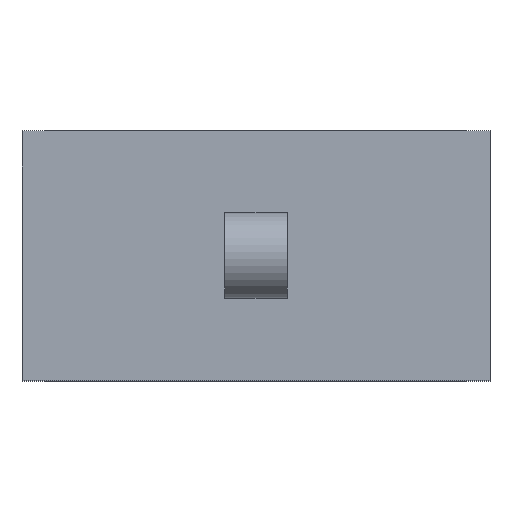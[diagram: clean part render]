
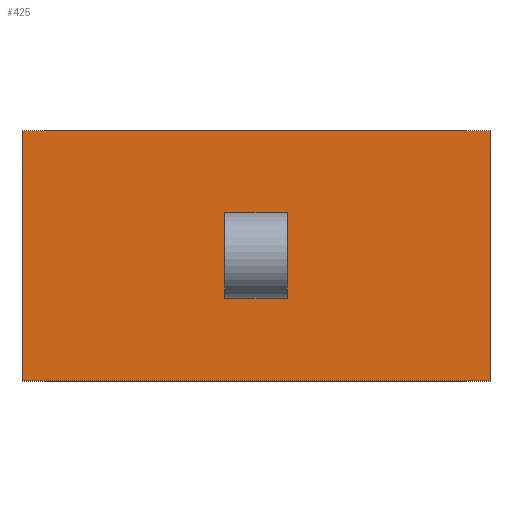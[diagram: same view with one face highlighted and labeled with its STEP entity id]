
A CAD part, top view. The second image highlights one B-rep face of the part: STEP entity #425.
In plain terms, the highlighted planar face has unit normal (0, 0, 1).
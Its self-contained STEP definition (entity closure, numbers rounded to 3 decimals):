
#24 = VERTEX_POINT('',#25);
#25 = CARTESIAN_POINT('',(5.,18.,29.));
#32 = PLANE('',#33);
#33 = AXIS2_PLACEMENT_3D('',#34,#35,#36);
#34 = CARTESIAN_POINT('',(5.,18.,-13.));
#35 = DIRECTION('',(1.,0.,0.));
#36 = DIRECTION('',(0.,0.,1.));
#44 = PLANE('',#45);
#45 = AXIS2_PLACEMENT_3D('',#46,#47,#48);
#46 = CARTESIAN_POINT('',(5.,18.,-13.));
#47 = DIRECTION('',(0.,1.,0.));
#48 = DIRECTION('',(0.,0.,1.));
#85 = VERTEX_POINT('',#86);
#86 = CARTESIAN_POINT('',(5.,50.,29.));
#100 = PLANE('',#101);
#101 = AXIS2_PLACEMENT_3D('',#102,#103,#104);
#102 = CARTESIAN_POINT('',(5.,50.,-13.));
#103 = DIRECTION('',(0.,1.,0.));
#104 = DIRECTION('',(0.,0.,1.));
#112 = EDGE_CURVE('',#24,#85,#113,.T.);
#113 = SURFACE_CURVE('',#114,(#118,#125),.PCURVE_S1.);
#114 = LINE('',#115,#116);
#115 = CARTESIAN_POINT('',(5.,18.,29.));
#116 = VECTOR('',#117,1.);
#117 = DIRECTION('',(0.,1.,0.));
#118 = PCURVE('',#32,#119);
#119 = DEFINITIONAL_REPRESENTATION('',(#120),#124);
#120 = LINE('',#121,#122);
#121 = CARTESIAN_POINT('',(42.,0.));
#122 = VECTOR('',#123,1.);
#123 = DIRECTION('',(0.,-1.));
#124 = ( GEOMETRIC_REPRESENTATION_CONTEXT(2) 
PARAMETRIC_REPRESENTATION_CONTEXT() REPRESENTATION_CONTEXT('2D SPACE',''
  ) );
#125 = PCURVE('',#126,#131);
#126 = PLANE('',#127);
#127 = AXIS2_PLACEMENT_3D('',#128,#129,#130);
#128 = CARTESIAN_POINT('',(5.,18.,29.));
#129 = DIRECTION('',(0.,0.,1.));
#130 = DIRECTION('',(1.,0.,0.));
#131 = DEFINITIONAL_REPRESENTATION('',(#132),#136);
#132 = LINE('',#133,#134);
#133 = CARTESIAN_POINT('',(0.,0.));
#134 = VECTOR('',#135,1.);
#135 = DIRECTION('',(0.,1.));
#136 = ( GEOMETRIC_REPRESENTATION_CONTEXT(2) 
PARAMETRIC_REPRESENTATION_CONTEXT() REPRESENTATION_CONTEXT('2D SPACE',''
  ) );
#271 = EDGE_CURVE('',#24,#272,#274,.T.);
#272 = VERTEX_POINT('',#273);
#273 = CARTESIAN_POINT('',(65.,18.,29.));
#274 = SURFACE_CURVE('',#275,(#279,#286),.PCURVE_S1.);
#275 = LINE('',#276,#277);
#276 = CARTESIAN_POINT('',(5.,18.,29.));
#277 = VECTOR('',#278,1.);
#278 = DIRECTION('',(1.,0.,0.));
#279 = PCURVE('',#44,#280);
#280 = DEFINITIONAL_REPRESENTATION('',(#281),#285);
#281 = LINE('',#282,#283);
#282 = CARTESIAN_POINT('',(42.,0.));
#283 = VECTOR('',#284,1.);
#284 = DIRECTION('',(0.,1.));
#285 = ( GEOMETRIC_REPRESENTATION_CONTEXT(2) 
PARAMETRIC_REPRESENTATION_CONTEXT() REPRESENTATION_CONTEXT('2D SPACE',''
  ) );
#286 = PCURVE('',#126,#287);
#287 = DEFINITIONAL_REPRESENTATION('',(#288),#292);
#288 = LINE('',#289,#290);
#289 = CARTESIAN_POINT('',(0.,0.));
#290 = VECTOR('',#291,1.);
#291 = DIRECTION('',(1.,0.));
#292 = ( GEOMETRIC_REPRESENTATION_CONTEXT(2) 
PARAMETRIC_REPRESENTATION_CONTEXT() REPRESENTATION_CONTEXT('2D SPACE',''
  ) );
#308 = PLANE('',#309);
#309 = AXIS2_PLACEMENT_3D('',#310,#311,#312);
#310 = CARTESIAN_POINT('',(65.,18.,-13.));
#311 = DIRECTION('',(1.,0.,0.));
#312 = DIRECTION('',(0.,0.,1.));
#425 = ADVANCED_FACE('',(#426,#474),#126,.T.);
#426 = FACE_BOUND('',#427,.T.);
#427 = EDGE_LOOP('',(#428,#429,#430,#453));
#428 = ORIENTED_EDGE('',*,*,#112,.F.);
#429 = ORIENTED_EDGE('',*,*,#271,.T.);
#430 = ORIENTED_EDGE('',*,*,#431,.T.);
#431 = EDGE_CURVE('',#272,#432,#434,.T.);
#432 = VERTEX_POINT('',#433);
#433 = CARTESIAN_POINT('',(65.,50.,29.));
#434 = SURFACE_CURVE('',#435,(#439,#446),.PCURVE_S1.);
#435 = LINE('',#436,#437);
#436 = CARTESIAN_POINT('',(65.,18.,29.));
#437 = VECTOR('',#438,1.);
#438 = DIRECTION('',(0.,1.,0.));
#439 = PCURVE('',#126,#440);
#440 = DEFINITIONAL_REPRESENTATION('',(#441),#445);
#441 = LINE('',#442,#443);
#442 = CARTESIAN_POINT('',(60.,0.));
#443 = VECTOR('',#444,1.);
#444 = DIRECTION('',(0.,1.));
#445 = ( GEOMETRIC_REPRESENTATION_CONTEXT(2) 
PARAMETRIC_REPRESENTATION_CONTEXT() REPRESENTATION_CONTEXT('2D SPACE',''
  ) );
#446 = PCURVE('',#308,#447);
#447 = DEFINITIONAL_REPRESENTATION('',(#448),#452);
#448 = LINE('',#449,#450);
#449 = CARTESIAN_POINT('',(42.,0.));
#450 = VECTOR('',#451,1.);
#451 = DIRECTION('',(0.,-1.));
#452 = ( GEOMETRIC_REPRESENTATION_CONTEXT(2) 
PARAMETRIC_REPRESENTATION_CONTEXT() REPRESENTATION_CONTEXT('2D SPACE',''
  ) );
#453 = ORIENTED_EDGE('',*,*,#454,.F.);
#454 = EDGE_CURVE('',#85,#432,#455,.T.);
#455 = SURFACE_CURVE('',#456,(#460,#467),.PCURVE_S1.);
#456 = LINE('',#457,#458);
#457 = CARTESIAN_POINT('',(5.,50.,29.));
#458 = VECTOR('',#459,1.);
#459 = DIRECTION('',(1.,0.,0.));
#460 = PCURVE('',#126,#461);
#461 = DEFINITIONAL_REPRESENTATION('',(#462),#466);
#462 = LINE('',#463,#464);
#463 = CARTESIAN_POINT('',(0.,32.));
#464 = VECTOR('',#465,1.);
#465 = DIRECTION('',(1.,0.));
#466 = ( GEOMETRIC_REPRESENTATION_CONTEXT(2) 
PARAMETRIC_REPRESENTATION_CONTEXT() REPRESENTATION_CONTEXT('2D SPACE',''
  ) );
#467 = PCURVE('',#100,#468);
#468 = DEFINITIONAL_REPRESENTATION('',(#469),#473);
#469 = LINE('',#470,#471);
#470 = CARTESIAN_POINT('',(42.,0.));
#471 = VECTOR('',#472,1.);
#472 = DIRECTION('',(0.,1.));
#473 = ( GEOMETRIC_REPRESENTATION_CONTEXT(2) 
PARAMETRIC_REPRESENTATION_CONTEXT() REPRESENTATION_CONTEXT('2D SPACE',''
  ) );
#474 = FACE_BOUND('',#475,.T.);
#475 = EDGE_LOOP('',(#476,#504,#530,#556));
#476 = ORIENTED_EDGE('',*,*,#477,.T.);
#477 = EDGE_CURVE('',#478,#480,#482,.T.);
#478 = VERTEX_POINT('',#479);
#479 = CARTESIAN_POINT('',(39.,30.,29.));
#480 = VERTEX_POINT('',#481);
#481 = CARTESIAN_POINT('',(31.,30.,29.));
#482 = SURFACE_CURVE('',#483,(#487,#493),.PCURVE_S1.);
#483 = LINE('',#484,#485);
#484 = CARTESIAN_POINT('',(18.,30.,29.));
#485 = VECTOR('',#486,1.);
#486 = DIRECTION('',(-1.,0.,0.));
#487 = PCURVE('',#126,#488);
#488 = DEFINITIONAL_REPRESENTATION('',(#489),#492);
#489 = B_SPLINE_CURVE_WITH_KNOTS('',1,(#490,#491),.UNSPECIFIED.,.F.,.F.,
  (2,2),(-21.,-13.),.PIECEWISE_BEZIER_KNOTS.);
#490 = CARTESIAN_POINT('',(34.,12.));
#491 = CARTESIAN_POINT('',(26.,12.));
#492 = ( GEOMETRIC_REPRESENTATION_CONTEXT(2) 
PARAMETRIC_REPRESENTATION_CONTEXT() REPRESENTATION_CONTEXT('2D SPACE',''
  ) );
#493 = PCURVE('',#494,#499);
#494 = PLANE('',#495);
#495 = AXIS2_PLACEMENT_3D('',#496,#497,#498);
#496 = CARTESIAN_POINT('',(31.,30.,25.5));
#497 = DIRECTION('',(0.,1.,0.));
#498 = DIRECTION('',(0.,0.,1.));
#499 = DEFINITIONAL_REPRESENTATION('',(#500),#503);
#500 = B_SPLINE_CURVE_WITH_KNOTS('',1,(#501,#502),.UNSPECIFIED.,.F.,.F.,
  (2,2),(-21.,-13.),.PIECEWISE_BEZIER_KNOTS.);
#501 = CARTESIAN_POINT('',(3.5,8.));
#502 = CARTESIAN_POINT('',(3.5,0.));
#503 = ( GEOMETRIC_REPRESENTATION_CONTEXT(2) 
PARAMETRIC_REPRESENTATION_CONTEXT() REPRESENTATION_CONTEXT('2D SPACE',''
  ) );
#504 = ORIENTED_EDGE('',*,*,#505,.T.);
#505 = EDGE_CURVE('',#480,#506,#508,.T.);
#506 = VERTEX_POINT('',#507);
#507 = CARTESIAN_POINT('',(31.,38.,29.));
#508 = SURFACE_CURVE('',#509,(#513,#519),.PCURVE_S1.);
#509 = LINE('',#510,#511);
#510 = CARTESIAN_POINT('',(31.,26.,29.));
#511 = VECTOR('',#512,1.);
#512 = DIRECTION('',(0.,1.,0.));
#513 = PCURVE('',#126,#514);
#514 = DEFINITIONAL_REPRESENTATION('',(#515),#518);
#515 = B_SPLINE_CURVE_WITH_KNOTS('',1,(#516,#517),.UNSPECIFIED.,.F.,.F.,
  (2,2),(2.5,13.5),.PIECEWISE_BEZIER_KNOTS.);
#516 = CARTESIAN_POINT('',(26.,10.5));
#517 = CARTESIAN_POINT('',(26.,21.5));
#518 = ( GEOMETRIC_REPRESENTATION_CONTEXT(2) 
PARAMETRIC_REPRESENTATION_CONTEXT() REPRESENTATION_CONTEXT('2D SPACE',''
  ) );
#519 = PCURVE('',#520,#525);
#520 = PLANE('',#521);
#521 = AXIS2_PLACEMENT_3D('',#522,#523,#524);
#522 = CARTESIAN_POINT('',(31.,34.,40.));
#523 = DIRECTION('',(1.,0.,0.));
#524 = DIRECTION('',(-0.,0.,1.));
#525 = DEFINITIONAL_REPRESENTATION('',(#526),#529);
#526 = B_SPLINE_CURVE_WITH_KNOTS('',1,(#527,#528),.UNSPECIFIED.,.F.,.F.,
  (2,2),(2.5,13.5),.PIECEWISE_BEZIER_KNOTS.);
#527 = CARTESIAN_POINT('',(-11.,5.5));
#528 = CARTESIAN_POINT('',(-11.,-5.5));
#529 = ( GEOMETRIC_REPRESENTATION_CONTEXT(2) 
PARAMETRIC_REPRESENTATION_CONTEXT() REPRESENTATION_CONTEXT('2D SPACE',''
  ) );
#530 = ORIENTED_EDGE('',*,*,#531,.F.);
#531 = EDGE_CURVE('',#532,#506,#534,.T.);
#532 = VERTEX_POINT('',#533);
#533 = CARTESIAN_POINT('',(39.,38.,29.));
#534 = SURFACE_CURVE('',#535,(#539,#545),.PCURVE_S1.);
#535 = LINE('',#536,#537);
#536 = CARTESIAN_POINT('',(18.,38.,29.));
#537 = VECTOR('',#538,1.);
#538 = DIRECTION('',(-1.,0.,0.));
#539 = PCURVE('',#126,#540);
#540 = DEFINITIONAL_REPRESENTATION('',(#541),#544);
#541 = B_SPLINE_CURVE_WITH_KNOTS('',1,(#542,#543),.UNSPECIFIED.,.F.,.F.,
  (2,2),(-21.,-13.),.PIECEWISE_BEZIER_KNOTS.);
#542 = CARTESIAN_POINT('',(34.,20.));
#543 = CARTESIAN_POINT('',(26.,20.));
#544 = ( GEOMETRIC_REPRESENTATION_CONTEXT(2) 
PARAMETRIC_REPRESENTATION_CONTEXT() REPRESENTATION_CONTEXT('2D SPACE',''
  ) );
#545 = PCURVE('',#546,#551);
#546 = PLANE('',#547);
#547 = AXIS2_PLACEMENT_3D('',#548,#549,#550);
#548 = CARTESIAN_POINT('',(31.,38.,25.5));
#549 = DIRECTION('',(0.,1.,0.));
#550 = DIRECTION('',(0.,0.,1.));
#551 = DEFINITIONAL_REPRESENTATION('',(#552),#555);
#552 = B_SPLINE_CURVE_WITH_KNOTS('',1,(#553,#554),.UNSPECIFIED.,.F.,.F.,
  (2,2),(-21.,-13.),.PIECEWISE_BEZIER_KNOTS.);
#553 = CARTESIAN_POINT('',(3.5,8.));
#554 = CARTESIAN_POINT('',(3.5,0.));
#555 = ( GEOMETRIC_REPRESENTATION_CONTEXT(2) 
PARAMETRIC_REPRESENTATION_CONTEXT() REPRESENTATION_CONTEXT('2D SPACE',''
  ) );
#556 = ORIENTED_EDGE('',*,*,#557,.F.);
#557 = EDGE_CURVE('',#478,#532,#558,.T.);
#558 = SURFACE_CURVE('',#559,(#563,#569),.PCURVE_S1.);
#559 = LINE('',#560,#561);
#560 = CARTESIAN_POINT('',(39.,26.,29.));
#561 = VECTOR('',#562,1.);
#562 = DIRECTION('',(0.,1.,0.));
#563 = PCURVE('',#126,#564);
#564 = DEFINITIONAL_REPRESENTATION('',(#565),#568);
#565 = B_SPLINE_CURVE_WITH_KNOTS('',1,(#566,#567),.UNSPECIFIED.,.F.,.F.,
  (2,2),(2.5,13.5),.PIECEWISE_BEZIER_KNOTS.);
#566 = CARTESIAN_POINT('',(34.,10.5));
#567 = CARTESIAN_POINT('',(34.,21.5));
#568 = ( GEOMETRIC_REPRESENTATION_CONTEXT(2) 
PARAMETRIC_REPRESENTATION_CONTEXT() REPRESENTATION_CONTEXT('2D SPACE',''
  ) );
#569 = PCURVE('',#570,#575);
#570 = PLANE('',#571);
#571 = AXIS2_PLACEMENT_3D('',#572,#573,#574);
#572 = CARTESIAN_POINT('',(39.,34.,40.));
#573 = DIRECTION('',(1.,0.,0.));
#574 = DIRECTION('',(-0.,0.,1.));
#575 = DEFINITIONAL_REPRESENTATION('',(#576),#579);
#576 = B_SPLINE_CURVE_WITH_KNOTS('',1,(#577,#578),.UNSPECIFIED.,.F.,.F.,
  (2,2),(2.5,13.5),.PIECEWISE_BEZIER_KNOTS.);
#577 = CARTESIAN_POINT('',(-11.,5.5));
#578 = CARTESIAN_POINT('',(-11.,-5.5));
#579 = ( GEOMETRIC_REPRESENTATION_CONTEXT(2) 
PARAMETRIC_REPRESENTATION_CONTEXT() REPRESENTATION_CONTEXT('2D SPACE',''
  ) );
